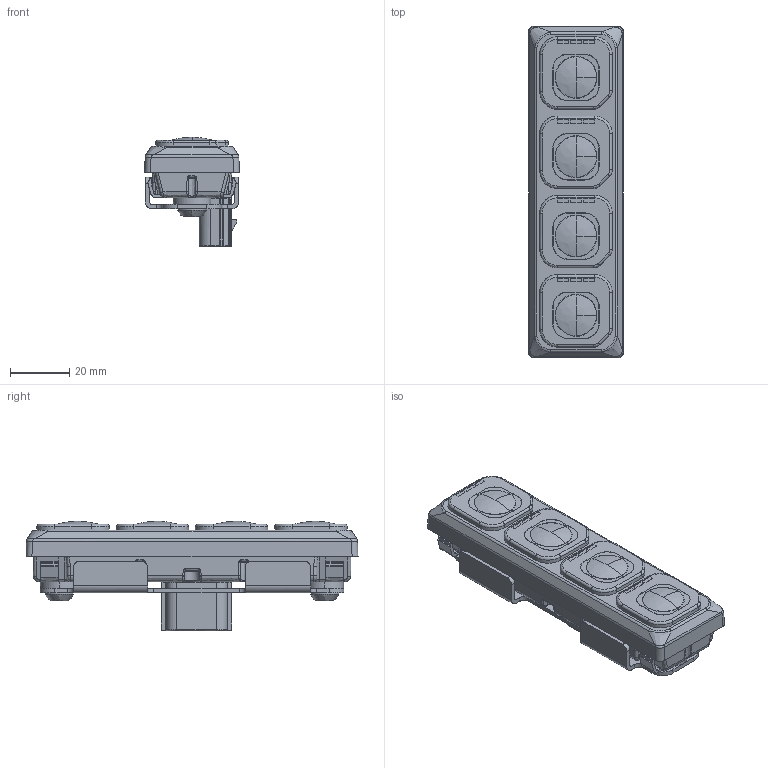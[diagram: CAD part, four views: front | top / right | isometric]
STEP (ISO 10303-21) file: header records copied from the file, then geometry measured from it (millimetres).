
FILE_DESCRIPTION(/* description */ (''),/* implementation_level */ '2;1');
FILE_NAME(/* name */ 'KEYCAN - Modello sicuro Gen.2021',/* time_stamp */ '2021-01-11T09:21:57+01:00',/* author */ (''),/* organization */ (''),/* preprocessor_version */ 'ST-DEVELOPER v15',/* originating_system */ '',/* authorisation */ '');
FILE_SCHEMA (('AUTOMOTIVE_DESIGN_CC2'));
Length unit declared in the file: millimetre
Products named in the file (4): Document; Keycan; M5x10; Fissaggio_Keycan
Assembly tree (4 placements, depth 2):
  Document
    Keycan
    M5x10  x2
    Fissaggio_Keycan
Bounding box: 32 x 112 x 36.9 mm (x, y, z)
Volume: 65351.1 mm3; surface area: 22589.7 mm2
Topology: 4 solids, 4 shells, 808 faces, 1992 edges, 1216 vertices
Faces by surface type: bspline 451, plane 357
Entity records: 27068 total; most frequent: CARTESIAN_POINT 15448, ORIENTED_EDGE 3872, EDGE_CURVE 1936, VERTEX_POINT 1192, B_SPLINE_CURVE_WITH_KNOTS 972, EDGE_LOOP 834, ADVANCED_FACE 790, FACE_OUTER_BOUND 790
